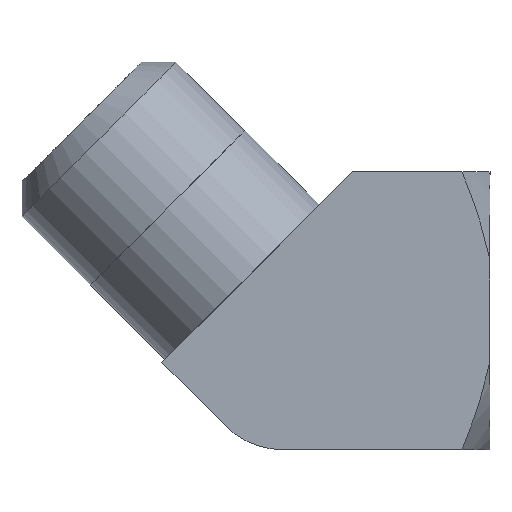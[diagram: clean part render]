
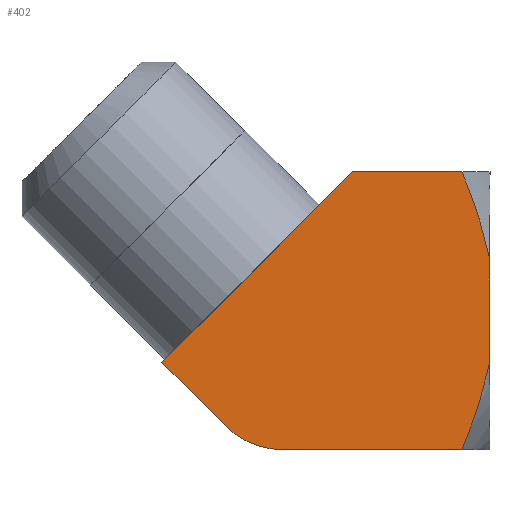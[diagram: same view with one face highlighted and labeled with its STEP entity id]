
A CAD part, front view. The second image highlights one B-rep face of the part: STEP entity #402.
In plain terms, the highlighted planar face has unit normal (0, -1, 0).
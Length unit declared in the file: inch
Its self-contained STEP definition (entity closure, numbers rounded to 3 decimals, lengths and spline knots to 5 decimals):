
#15=(
BOUNDED_CURVE()
B_SPLINE_CURVE(2,(#732,#733,#734),.UNSPECIFIED.,.F.,.F.)
B_SPLINE_CURVE_WITH_KNOTS((3,3),(0.,0.58115),.UNSPECIFIED.)
CURVE()
GEOMETRIC_REPRESENTATION_ITEM()
RATIONAL_B_SPLINE_CURVE((1.,1.034,1.))
REPRESENTATION_ITEM('')
);
#16=(
BOUNDED_CURVE()
B_SPLINE_CURVE(2,(#736,#737,#738),.UNSPECIFIED.,.F.,.F.)
B_SPLINE_CURVE_WITH_KNOTS((3,3),(0.,0.58115),.UNSPECIFIED.)
CURVE()
GEOMETRIC_REPRESENTATION_ITEM()
RATIONAL_B_SPLINE_CURVE((1.,1.034,1.))
REPRESENTATION_ITEM('')
);
#31=PLANE('',#458);
#57=FACE_OUTER_BOUND('',#83,.T.);
#83=EDGE_LOOP('',(#322,#323,#324,#325,#326,#327,#328,#329));
#106=LINE('',#702,#130);
#111=LINE('',#725,#135);
#114=LINE('',#731,#138);
#115=LINE('',#740,#139);
#116=LINE('',#741,#140);
#130=VECTOR('',#523,0.3937);
#135=VECTOR('',#546,0.3937);
#138=VECTOR('',#551,0.3937);
#139=VECTOR('',#552,0.3937);
#140=VECTOR('',#553,0.3937);
#165=CIRCLE('',#456,0.2);
#187=VERTEX_POINT('',#699);
#188=VERTEX_POINT('',#701);
#195=VERTEX_POINT('',#718);
#196=VERTEX_POINT('',#720);
#197=VERTEX_POINT('',#724);
#199=VERTEX_POINT('',#730);
#200=VERTEX_POINT('',#735);
#201=VERTEX_POINT('',#739);
#232=EDGE_CURVE('',#187,#188,#106,.T.);
#240=EDGE_CURVE('',#195,#196,#165,.T.);
#242=EDGE_CURVE('',#196,#197,#111,.T.);
#245=EDGE_CURVE('',#199,#195,#114,.T.);
#246=EDGE_CURVE('',#188,#199,#15,.T.);
#247=EDGE_CURVE('',#200,#187,#16,.T.);
#248=EDGE_CURVE('',#200,#201,#115,.T.);
#249=EDGE_CURVE('',#197,#201,#116,.T.);
#322=ORIENTED_EDGE('',*,*,#240,.F.);
#323=ORIENTED_EDGE('',*,*,#245,.F.);
#324=ORIENTED_EDGE('',*,*,#246,.F.);
#325=ORIENTED_EDGE('',*,*,#232,.F.);
#326=ORIENTED_EDGE('',*,*,#247,.F.);
#327=ORIENTED_EDGE('',*,*,#248,.T.);
#328=ORIENTED_EDGE('',*,*,#249,.F.);
#329=ORIENTED_EDGE('',*,*,#242,.F.);
#402=ADVANCED_FACE('',(#57),#31,.F.);
#456=AXIS2_PLACEMENT_3D('',#721,#541,#542);
#458=AXIS2_PLACEMENT_3D('',#729,#549,#550);
#523=DIRECTION('',(0.,0.,-1.));
#541=DIRECTION('center_axis',(0.,1.,0.));
#542=DIRECTION('ref_axis',(-0.383,0.,-0.924));
#546=DIRECTION('',(-0.707,0.,0.707));
#549=DIRECTION('center_axis',(0.,1.,0.));
#550=DIRECTION('ref_axis',(1.,0.,0.));
#551=DIRECTION('',(-1.,0.,0.));
#552=DIRECTION('',(-1.,0.,0.));
#553=DIRECTION('',(0.707,0.,0.707));
#699=CARTESIAN_POINT('',(0.45305,0.,0.12572));
#701=CARTESIAN_POINT('',(0.45305,0.,-0.12572));
#702=CARTESIAN_POINT('',(0.45305,0.,0.17175));
#718=CARTESIAN_POINT('',(-0.05944,0.,-0.3435));
#720=CARTESIAN_POINT('',(-0.20086,0.,-0.28492));
#721=CARTESIAN_POINT('Origin',(-0.05944,0.,-0.1435));
#724=CARTESIAN_POINT('',(-0.35805,0.,-0.12774));
#725=CARTESIAN_POINT('',(-0.14228,0.,-0.3435));
#729=CARTESIAN_POINT('Origin',(-0.19695,0.,0.15683));
#730=CARTESIAN_POINT('',(0.38376,0.,-0.3435));
#731=CARTESIAN_POINT('',(0.35305,0.,-0.3435));
#732=CARTESIAN_POINT('Ctrl Pts',(0.45305,0.,
-0.12572));
#733=CARTESIAN_POINT('Ctrl Pts',(0.43448,0.,
-0.21926));
#734=CARTESIAN_POINT('Ctrl Pts',(0.38376,0.,
-0.3435));
#735=CARTESIAN_POINT('',(0.38376,0.,0.3435));
#736=CARTESIAN_POINT('Ctrl Pts',(0.38376,0.,
0.3435));
#737=CARTESIAN_POINT('Ctrl Pts',(0.43448,0.,
0.21926));
#738=CARTESIAN_POINT('Ctrl Pts',(0.45305,0.,
0.12572));
#739=CARTESIAN_POINT('',(0.11319,0.,0.3435));
#740=CARTESIAN_POINT('',(0.35305,0.,0.3435));
#741=CARTESIAN_POINT('',(-0.35805,0.,-0.12774));
